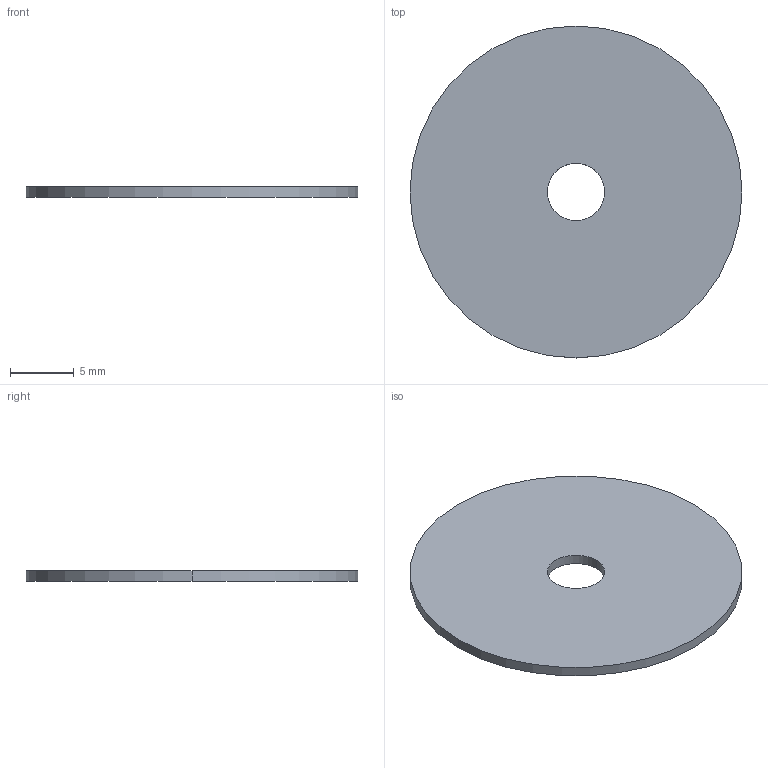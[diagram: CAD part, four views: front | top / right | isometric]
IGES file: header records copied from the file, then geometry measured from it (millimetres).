
Global section: file name: No Iges File Name specified; native system: AutoDesk Inventor R12.0; preprocessor: AutoDesk Inventor Iges Exporter R12.0; date: 20140114.111224; units: millimetre
Bounding box: 26 x 26 x 0.8 mm (x, y, z)
Volume: 412 mm3; surface area: 1106.7 mm2
Topology: 1 solids, 1 shells, 6 faces, 12 edges, 8 vertices
Faces by surface type: cylinder 2, bspline 2, plane 2
